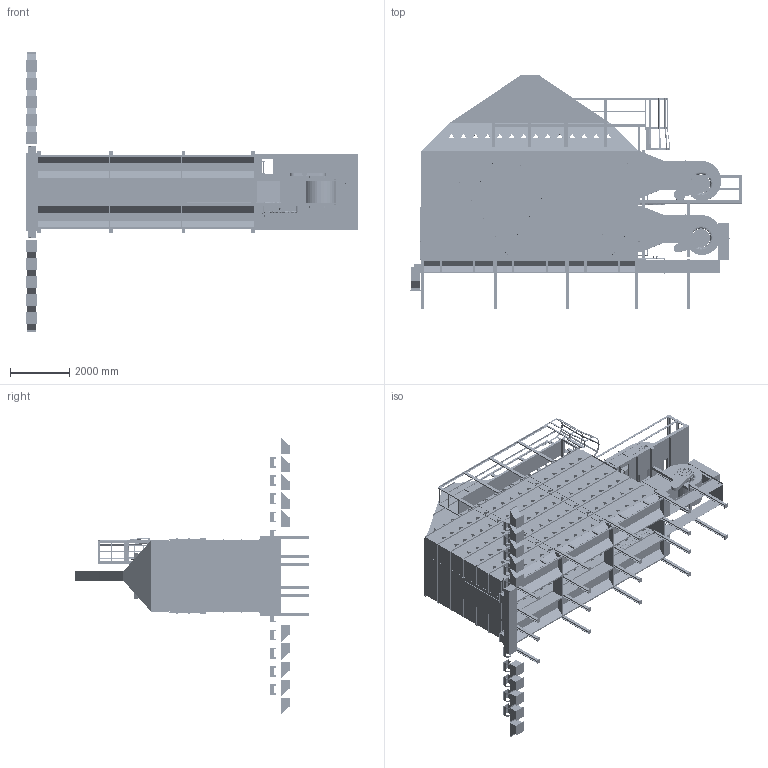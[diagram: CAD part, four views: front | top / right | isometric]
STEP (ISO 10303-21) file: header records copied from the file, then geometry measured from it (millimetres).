
FILE_DESCRIPTION(/* description */ ('PLAN AND ELEVATION VIEW FOR D24108 WITH ROOF & GRAVITY FILL'),/* implementation_level */ '2;1');
FILE_NAME(/* name */ 'C:\Engineering\Designs\Sales\Dryer\Workspaces\D24 All\D24108GF.stp',/* time_stamp */ '2025-01-07T09:29:12-06:00',/* author */ ('max.fleming'),/* organization */ (''),/* preprocessor_version */ 'ST-DEVELOPER v18.1',/* originating_system */ 'Autodesk Inventor 2022',/* authorisation */ '');
FILE_SCHEMA (('AUTOMOTIVE_DESIGN { 1 0 10303 214 3 1 1 }'));
Products named in the file (33): D24108GF; 24FT CATWALK; 24FT FRAME; 8FT MID FRAME; 8FT LHRH FRAME; 24FT Grav Assy; 24FT ROOF GF; 8FTRoof GF MID; 8FTRoof GF LHRH; Tongue; Platform Support 1-T; 24FT BODY TIER; LH Body; MID Body; RH Body; LH Body_MIR2; MID Body_MIR1; RH Body_MIR2; Outside Splice; Trans & Blower; Screen Guard; Belt Shield; LP Fuel; Standard Size End Plenum Panels; Ladder 2' section; Platform; 1 Tier Vertical Support; LP Inlet; 2401002; Liquid Propane Pipe; 6'' CROSS AUGER; 12'' CROSS DRAG; Leg Kit 24 10T 4'
Assembly tree (57 placements, depth 3):
  D24108GF
    24FT CATWALK
    24FT FRAME
      8FT LHRH FRAME  x2
      8FT MID FRAME
    24FT Grav Assy
    24FT ROOF GF
      8FTRoof GF LHRH  x2
      8FTRoof GF MID
    Tongue
    Platform Support 1-T
    24FT BODY TIER  x6
      LH Body
      MID Body
      RH Body
      LH Body_MIR2
      MID Body_MIR1
      RH Body_MIR2
      Outside Splice
    Trans & Blower  x2
    Screen Guard  x4
    Belt Shield  x2
    LP Fuel  x2
    Standard Size End Plenum Panels  x9
    Platform
    1 Tier Vertical Support  x4
    LP Inlet
    2401002
    Liquid Propane Pipe  x3
  Ladder 2' section
  6'' CROSS AUGER
  12'' CROSS DRAG
  Leg Kit 24 10T 4'
Bounding box: 11201.4 x 7911.48 x 9423.4 mm (x, y, z)
Volume: 57138847413 mm3; surface area: 783277068.4 mm2
Topology: 431 solids, 589 shells, 36406 faces, 94568 edges, 60379 vertices
Faces by surface type: plane 16734, cylinder 10732, bspline 3773, cone 3394, torus 1591, sphere 182
Full cylindrical faces by diameter (mm): 1 x10, 1.651 x6, 1.753 x6, 1.778 x12, 2.019 x4, 2.108 x2, 2.286 x24, 2.489 x2, 2.54 x4, 3.091 x288, 3.175 x5, 3.251 x20, 3.306 x288, 3.522 x2, 3.658 x28, 3.8 x16, 4 x384, 4.039 x20, 4.166 x256, 4.191 x4, 4.229 x2, 4.267 x2, 4.369 x8, 4.445 x8, 4.701 x592, 4.762 x16, 4.851 x8, 4.928 x32, 5.283 x2, 5.527 x20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
Entity records: 769966 total; most frequent: CARTESIAN_POINT 341262, ORIENTED_EDGE 89766, DIRECTION 80277, EDGE_CURVE 45023, VERTEX_POINT 28796, AXIS2_PLACEMENT_3D 27536, LINE 25205, VECTOR 25205
